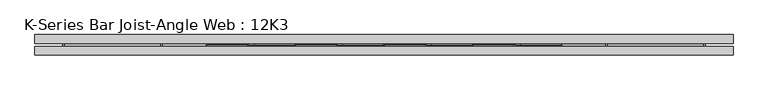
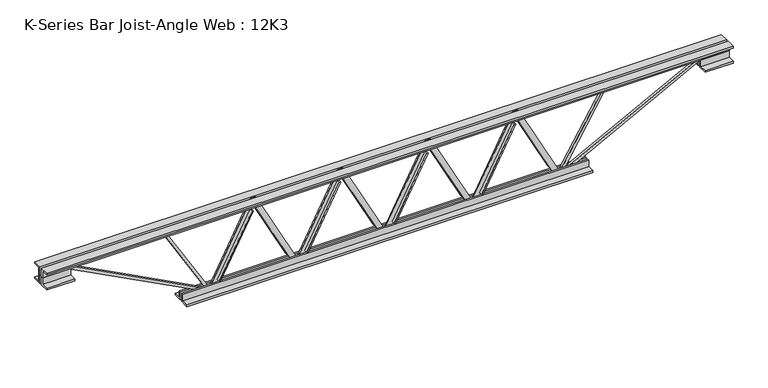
"""IFC4 building model written with IfcOpenShell, lengths in millimetres: beam geometry, K-Series Bar Joist-Angle Web : 12K3."""

import ifcopenshell
import ifcopenshell.guid

model = None  # the IFC model being written
_history = None  # IfcOwnerHistory: only IFC2X3 demands one
_inside = {}  # id of a spatial element -> (the spatial element, [elements in it])
_under = {}  # id of a project, library or spatial element -> (it, [spatial elements below it])
_declared = {}  # id of a project -> (the project, [libraries it declares])
_typed = {}  # id of a type object -> (the type object, [elements of that type])
_made_of = {}  # id of a material, layer set ... -> (it, [elements and type objects made of it])


def new_model(schema):
    """Start an empty IFC model of exactly this schema.

    Asked for "IFC4X3", IfcOpenShell would pick the latest addendum, in which some entities
    have other attributes; the version numbers below select the first issue.
    IFC2X3 requires an IfcOwnerHistory on every rooted entity: one is made here for all.
    """
    global model, _history
    if schema == "IFC4X3":
        model = ifcopenshell.file(schema_version=(4, 3, 0, 0))
    else:
        model = ifcopenshell.file(schema=schema)
    _inside.clear()
    _under.clear()
    _declared.clear()
    _typed.clear()
    _made_of.clear()
    _history = None
    if model.schema == "IFC2X3":
        org = make("IfcOrganization", Name="unknown")
        user = make(
            "IfcPersonAndOrganization",
            ThePerson=make("IfcPerson", FamilyName="unknown"),
            TheOrganization=org,
        )
        app = make(
            "IfcApplication",
            ApplicationDeveloper=org,
            Version="unknown",
            ApplicationFullName="unknown",
            ApplicationIdentifier="unknown",
        )
        _history = make(
            "IfcOwnerHistory",
            OwningUser=user,
            OwningApplication=app,
            ChangeAction="ADDED",
            CreationDate=0,
        )
    return model


def make(cls, **values):
    """One entity of the class cls with the attributes given. An attribute that is None is left unset."""
    return model.create_entity(
        cls, **{name: value for name, value in values.items() if value is not None}
    )


def rooted(cls, **values):
    """An entity with a GlobalId (a new one), such as an element, a storey or a relation."""
    return make(cls, GlobalId=ifcopenshell.guid.new(), OwnerHistory=_history, **values)


def si_unit(unit_type, name, prefix=None):
    """IfcSIUnit, for example si_unit("LENGTHUNIT", "METRE", prefix="MILLI")."""
    return make("IfcSIUnit", UnitType=unit_type, Prefix=prefix, Name=name)


def assignment(units):
    """IfcUnitAssignment: the units of a project."""
    return None if units is None else make("IfcUnitAssignment", Units=units)


def point(xyz):
    """IfcCartesianPoint."""
    return None if xyz is None else make("IfcCartesianPoint", Coordinates=xyz)


def direction(xyz):
    """IfcDirection."""
    return None if xyz is None else make("IfcDirection", DirectionRatios=xyz)


def frame(location, z_axis=None, x_axis=None):
    """IfcAxis2Placement3D, a coordinate frame: its origin and axes. An axis left out is left unset."""
    return make(
        "IfcAxis2Placement3D",
        Location=point(location),
        Axis=direction(z_axis),
        RefDirection=direction(x_axis),
    )


def origin():
    """The frame at (0, 0, 0) with its axes left unset."""
    return frame((0.0, 0.0, 0.0))


def place(relative_to, where):
    """IfcLocalPlacement: puts the frame where relative to a parent placement (None: the world)."""
    return make(
        "IfcLocalPlacement", PlacementRelTo=relative_to, RelativePlacement=where
    )


def context(
    kind, dimensions, precision=None, world=None, true_north=None, identifier=None
):
    """IfcGeometricRepresentationContext, for example the 3D "Model" context."""
    return make(
        "IfcGeometricRepresentationContext",
        ContextIdentifier=identifier,
        ContextType=kind,
        CoordinateSpaceDimension=dimensions,
        Precision=precision,
        WorldCoordinateSystem=world,
        TrueNorth=true_north,
    )


def project(units=None, contexts=None):
    """IfcProject with its units and contexts."""
    return rooted(
        "IfcProject",
        Name="project",
        RepresentationContexts=contexts,
        UnitsInContext=assignment(units),
    )


def spatial(cls, under=None, at=None, **own):
    """A site, building, storey or space (cls), placed at a placement, below another one or the project."""
    s = rooted(cls, ObjectPlacement=at, **own)
    if under is not None:
        _under.setdefault(under.id(), (under, []))[1].append(s)
    return s


def polyline(points):
    """IfcPolyline through the points."""
    return make("IfcPolyline", Points=[point(p) for p in points])


def outline(outer, holes=None, kind="AREA"):
    """IfcArbitraryClosedProfileDef: a profile drawn as a closed curve; with holes, ...WithVoids."""
    if holes is None:
        return make("IfcArbitraryClosedProfileDef", ProfileType=kind, OuterCurve=outer)
    return make(
        "IfcArbitraryProfileDefWithVoids",
        ProfileType=kind,
        OuterCurve=outer,
        InnerCurves=holes,
    )


def extrude(swept, where, along, depth):
    """IfcExtrudedAreaSolid: the profile swept, set in the frame where, extruded along a direction by depth."""
    return make(
        "IfcExtrudedAreaSolid",
        SweptArea=swept,
        Position=where,
        ExtrudedDirection=direction(along),
        Depth=depth,
    )


def faces_of(points, faces, orient=None, outer=None):
    """IfcFace entities. A face is a list of loops; a loop is a list of indices into points, from 0.

    orient and outer hold one flag for each loop. By default every Orientation is true, the
    first loop of a face is its IfcFaceOuterBound and the others are IfcFaceBound.
    """
    made = []
    for i, loops in enumerate(faces):
        bounds = []
        for j, loop in enumerate(loops):
            is_outer = j == 0 if outer is None else outer[i][j]
            bounds.append(
                make(
                    "IfcFaceOuterBound" if is_outer else "IfcFaceBound",
                    Bound=make("IfcPolyLoop", Polygon=[points[k] for k in loop]),
                    Orientation=True if orient is None else orient[i][j],
                )
            )
        made.append(make("IfcFace", Bounds=bounds))
    return made


def faceted_brep(points, faces, orient=None, outer=None, voids=None):
    """IfcFacetedBrep: a solid bounded by flat faces; with voids (closed shells), ...WithVoids."""
    shared = [point(p) for p in points]
    hull = make("IfcClosedShell", CfsFaces=faces_of(shared, faces, orient, outer))
    if voids is None:
        return make("IfcFacetedBrep", Outer=hull)
    return make(
        "IfcFacetedBrepWithVoids",
        Outer=hull,
        Voids=[
            make(cls, CfsFaces=faces_of(shared, fs, o, b)) for cls, fs, o, b in voids
        ],
    )


def shape(context_of_items, identifier, shape_type, items):
    """IfcShapeRepresentation: the items that make up one representation, for example the "Body"."""
    return make(
        "IfcShapeRepresentation",
        ContextOfItems=context_of_items,
        RepresentationIdentifier=identifier,
        RepresentationType=shape_type,
        Items=items,
    )


def source(mapping_origin, context_of_items, identifier, shape_type, items):
    """IfcRepresentationMap: a shape defined once, which mapped items show again and again."""
    return make(
        "IfcRepresentationMap",
        MappingOrigin=mapping_origin,
        MappedRepresentation=shape(context_of_items, identifier, shape_type, items),
    )


def transform(
    local_origin,
    x_axis=None,
    y_axis=None,
    z_axis=None,
    scale=None,
    scale2=None,
    scale3=None,
    uniform=True,
):
    """IfcCartesianTransformationOperator3D, or its non-uniform kind. x_axis, y_axis, z_axis: its Axis1, 2, 3."""
    if uniform:
        return make(
            "IfcCartesianTransformationOperator3D",
            Axis1=direction(x_axis),
            Axis2=direction(y_axis),
            LocalOrigin=point(local_origin),
            Scale=scale,
            Axis3=direction(z_axis),
        )
    return make(
        "IfcCartesianTransformationOperator3DnonUniform",
        Axis1=direction(x_axis),
        Axis2=direction(y_axis),
        LocalOrigin=point(local_origin),
        Scale=scale,
        Axis3=direction(z_axis),
        Scale2=scale2,
        Scale3=scale3,
    )


def mapped(mapping_source, mapping_target):
    """IfcMappedItem: shows the shape of a source again, moved by a transform."""
    return make(
        "IfcMappedItem", MappingSource=mapping_source, MappingTarget=mapping_target
    )


def made_of(thing, what):
    """Note that an element or type object is made of a material, layer set ...; save() writes the relation."""
    if what is not None:
        _made_of.setdefault(what.id(), (what, []))[1].append(thing)
    return thing


def element(
    cls,
    number,
    at=None,
    inside=None,
    cuts=None,
    type_object=None,
    material=None,
    context=None,
    identifier="Body",
    shape_type=None,
    held_by="IfcProductDefinitionShape",
    body=None,
    shapes=None,
    **own,
):
    """One element of the class cls, such as IfcWall. Its Tag is "e" and its number.

    at: its placement. inside: the storey or other place that contains it. cuts: it is an
    opening in that element (IfcRelVoidsElement). A single representation is given by context,
    identifier, shape_type and body (its items); several are given by shapes. held_by: the class
    of the entity that holds the representations. save() writes the other relations.
    """
    e = rooted(cls, Tag="e%d" % number, ObjectPlacement=at, **own)
    if body is not None:
        shapes = [shape(context, identifier, shape_type, body)]
    if shapes is not None:
        e.Representation = make(held_by, Representations=shapes)
    if inside is not None:
        _inside.setdefault(inside.id(), (inside, []))[1].append(e)
    if cuts is not None:
        rooted(
            "IfcRelVoidsElement", RelatingBuildingElement=cuts, RelatedOpeningElement=e
        )
    if type_object is not None:
        _typed.setdefault(type_object.id(), (type_object, []))[1].append(e)
    return made_of(e, material)


def aggregate(whole, parts):
    """IfcRelAggregates: a whole, such as a stair, and the parts it consists of."""
    return rooted("IfcRelAggregates", RelatingObject=whole, RelatedObjects=parts)


def save(model, path):
    """Write the relations noted so far, then the file.

    IfcRelAggregates (storeys below a building ...), IfcRelContainedInSpatialStructure (elements
    in a storey), IfcRelDefinesByType, IfcRelAssociatesMaterial and IfcRelDeclares: one each for
    every whole, place, type object, material and project.
    """
    for whole, parts in _under.values():
        aggregate(whole, parts)
    for where, things in _inside.values():
        rooted(
            "IfcRelContainedInSpatialStructure",
            RelatedElements=things,
            RelatingStructure=where,
        )
    for kind, things in _typed.values():
        rooted("IfcRelDefinesByType", RelatedObjects=things, RelatingType=kind)
    for what, things in _made_of.values():
        rooted("IfcRelAssociatesMaterial", RelatedObjects=things, RelatingMaterial=what)
    for by, libraries in _declared.values():
        rooted("IfcRelDeclares", RelatingContext=by, RelatedDefinitions=libraries)
    model.write(path)


def k_series_bar_joist_angle_web_12k3_0c52efd9(model_context):
    return source(origin(), model_context, "Body", "SolidModel", [
        extrude(outline(polyline([(-4.7625, 4.7624999), (-4.7625, 0.0), (-17.4625, 0.0), (-17.4625, 4.7624999), (-4.7625, 4.7624999)])), frame((285.8866489, 0.0, -114.3), z_axis=(-0.4612733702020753, 0.0, 0.8872580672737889), x_axis=(0.0, -1.0, 0.0)), (0.0, 0.0, 1.0), 257.6476996),
        extrude(outline(polyline([(-149.225, 316.1770833), (-130.175, 316.1770833), (-130.175, 315.6104865), (149.225, 170.3542365), (149.225, 151.8708333), (130.175, 151.8708333), (130.175, 158.7874301), (-149.225, 304.0436801), (-149.225, 316.1770833)])), frame((0.0, 0.0, 0.0), z_axis=(0.0, 1.0, 0.0), x_axis=(0.0, 0.0, 1.0)), (0.0, 0.0, 1.0), 4.7625),
        faceted_brep([(0.2645833, 0.0, -130.175), (0.2645833, 0.0, -149.225), (0.2645833, -4.7625, -149.225), (0.2645833, -4.7625, -130.175), (0.8311801, 0.0, -130.175), (146.0874301, 0.0, 149.225), (164.5708333, 0.0, 149.225), (164.5708333, 0.0, 130.175), (157.6542365, 0.0, 130.175), (12.3979865, 0.0, -149.225), (12.3979865, -4.7625, -149.225), (30.5550178, -4.7625, -114.3), (26.3294512, -4.7625, -112.1031856), (145.175474, -4.7625, 116.4968144), (149.4010405, -4.7625, 114.3), (157.6542365, -4.7625, 130.175), (164.5708333, -4.7625, 130.175), (164.5708333, -4.7625, 149.225), (146.0874301, -4.7625, 149.225), (0.8311801, -4.7625, -130.175), (149.4010405, -17.4625, 114.3), (30.5550178, -17.4625, -114.3), (26.3294512, -17.4625, -112.1031856), (145.175474, -17.4625, 116.4968144)], [[[0, 1, 2, 3]], [[1, 0, 4, 5, 6, 7, 8, 9]], [[2, 1, 9, 10]], [[3, 2, 10, 11, 12, 13, 14, 15, 16, 17, 18, 19]], [[0, 3, 19, 4]], [[9, 8, 15, 14, 20, 21, 11, 10]], [[5, 4, 19, 18]], [[7, 6, 17, 16]], [[8, 7, 16, 15]], [[6, 5, 18, 17]], [[21, 22, 12, 11]], [[20, 14, 13, 23]], [[22, 21, 20, 23]], [[12, 22, 23, 13]]]),
        extrude(outline(polyline([(-4.7625, 4.7625), (-4.7625, 0.0), (-17.4625, 0.0), (-17.4625, 4.7625), (-4.7625, 4.7625)])), frame((-30.5550178, 0.0, -114.3), z_axis=(-0.4612733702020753, 0.0, 0.8872580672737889), x_axis=(0.0, -1.0, 0.0)), (0.0, 0.0, 1.0), 257.6476996),
        extrude(outline(polyline([(-149.225, -0.2645833), (-130.175, -0.2645833), (-130.175, -0.8311801), (149.225, -146.0874301), (149.225, -164.5708333), (130.175, -164.5708333), (130.175, -157.6542365), (-149.225, -12.3979865), (-149.225, -0.2645833)])), frame((0.0, 0.0, 0.0), z_axis=(0.0, 1.0, 0.0), x_axis=(0.0, 0.0, 1.0)), (0.0, 0.0, 1.0), 4.7625),
        faceted_brep([(-316.1770833, 0.0, -130.175), (-316.1770833, 0.0, -149.225), (-316.1770833, -4.7625, -149.225), (-316.1770833, -4.7625, -130.175), (-315.6104865, 0.0, -130.175), (-170.3542365, 0.0, 149.225), (-151.8708333, 0.0, 149.225), (-151.8708333, 0.0, 130.175), (-158.7874301, 0.0, 130.175), (-304.0436801, 0.0, -149.225), (-304.0436801, -4.7625, -149.225), (-285.8866489, -4.7625, -114.3), (-290.1122154, -4.7625, -112.1031856), (-171.2661927, -4.7625, 116.4968144), (-167.0406262, -4.7625, 114.3), (-158.7874301, -4.7625, 130.175), (-151.8708333, -4.7625, 130.175), (-151.8708333, -4.7625, 149.225), (-170.3542365, -4.7625, 149.225), (-315.6104865, -4.7625, -130.175), (-167.0406262, -17.4625, 114.3), (-285.8866489, -17.4625, -114.3), (-290.1122154, -17.4625, -112.1031856), (-171.2661927, -17.4625, 116.4968144)], [[[0, 1, 2, 3]], [[1, 0, 4, 5, 6, 7, 8, 9]], [[2, 1, 9, 10]], [[3, 2, 10, 11, 12, 13, 14, 15, 16, 17, 18, 19]], [[0, 3, 19, 4]], [[9, 8, 15, 14, 20, 21, 11, 10]], [[5, 4, 19, 18]], [[7, 6, 17, 16]], [[8, 7, 16, 15]], [[6, 5, 18, 17]], [[21, 22, 12, 11]], [[20, 14, 13, 23]], [[22, 21, 20, 23]], [[12, 22, 23, 13]]]),
        extrude(outline(polyline([(-4.7625, 4.7625), (-4.7625, 0.0), (-17.4625, 0.0), (-17.4625, 4.7625), (-4.7625, 4.7625)])), frame((602.3283155, 0.0, -114.3), z_axis=(-0.4612733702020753, 0.0, 0.8872580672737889), x_axis=(0.0, -1.0, 0.0)), (0.0, 0.0, 1.0), 257.6476996),
        extrude(outline(polyline([(-149.225, 632.61875), (-130.175, 632.61875), (-130.175, 632.0521532), (149.225, 486.7959032), (149.225, 468.3125), (130.175, 468.3125), (130.175, 475.2290968), (-149.225, 620.4853468), (-149.225, 632.61875)])), frame((0.0, 0.0, 0.0), z_axis=(0.0, 1.0, 0.0), x_axis=(0.0, 0.0, 1.0)), (0.0, 0.0, 1.0), 4.7625),
        faceted_brep([(316.70625, 0.0, -130.175), (316.70625, 0.0, -149.225), (316.70625, -4.7625, -149.225), (316.70625, -4.7625, -130.175), (317.2728468, 0.0, -130.175), (462.5290968, 0.0, 149.225), (481.0125, 0.0, 149.225), (481.0125, 0.0, 130.175), (474.0959032, 0.0, 130.175), (328.8396532, 0.0, -149.225), (328.8396532, -4.7625, -149.225), (346.9966845, -4.7625, -114.3), (342.7711179, -4.7625, -112.1031856), (461.6171406, -4.7625, 116.4968144), (465.8427072, -4.7625, 114.3), (474.0959032, -4.7625, 130.175), (481.0125, -4.7625, 130.175), (481.0125, -4.7625, 149.225), (462.5290968, -4.7625, 149.225), (317.2728468, -4.7625, -130.175), (465.8427072, -17.4625, 114.3), (346.9966845, -17.4625, -114.3), (342.7711179, -17.4625, -112.1031856), (461.6171406, -17.4625, 116.4968144)], [[[0, 1, 2, 3]], [[1, 0, 4, 5, 6, 7, 8, 9]], [[2, 1, 9, 10]], [[3, 2, 10, 11, 12, 13, 14, 15, 16, 17, 18, 19]], [[0, 3, 19, 4]], [[9, 8, 15, 14, 20, 21, 11, 10]], [[5, 4, 19, 18]], [[7, 6, 17, 16]], [[8, 7, 16, 15]], [[6, 5, 18, 17]], [[21, 22, 12, 11]], [[20, 14, 13, 23]], [[22, 21, 20, 23]], [[12, 22, 23, 13]]]),
        extrude(outline(polyline([(-4.7625, 4.7625), (-4.7625, 0.0), (-17.4625, 0.0), (-17.4625, 4.7625), (-4.7625, 4.7625)])), frame((-346.9966845, 0.0, -114.3), z_axis=(-0.4612733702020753, 0.0, 0.8872580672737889), x_axis=(0.0, -1.0, 0.0)), (0.0, 0.0, 1.0), 257.6476996),
        extrude(outline(polyline([(-149.225, -316.70625), (-130.175, -316.70625), (-130.175, -317.2728468), (149.225, -462.5290968), (149.225, -481.0125), (130.175, -481.0125), (130.175, -474.0959032), (-149.225, -328.8396532), (-149.225, -316.70625)])), frame((0.0, 0.0, 0.0), z_axis=(0.0, 1.0, 0.0), x_axis=(0.0, 0.0, 1.0)), (0.0, 0.0, 1.0), 4.7625),
        faceted_brep([(-632.61875, 0.0, -130.175), (-632.61875, 0.0, -149.225), (-632.61875, -4.7625, -149.225), (-632.61875, -4.7625, -130.175), (-632.0521532, 0.0, -130.175), (-486.7959032, 0.0, 149.225), (-468.3125, 0.0, 149.225), (-468.3125, 0.0, 130.175), (-475.2290968, 0.0, 130.175), (-620.4853468, 0.0, -149.225), (-620.4853468, -4.7625, -149.225), (-602.3283155, -4.7625, -114.3), (-606.5538821, -4.7625, -112.1031856), (-487.7078594, -4.7625, 116.4968144), (-483.4822928, -4.7625, 114.3), (-475.2290968, -4.7625, 130.175), (-468.3125, -4.7625, 130.175), (-468.3125, -4.7625, 149.225), (-486.7959032, -4.7625, 149.225), (-632.0521532, -4.7625, -130.175), (-483.4822928, -17.4625, 114.3), (-602.3283155, -17.4625, -114.3), (-606.5538821, -17.4625, -112.1031856), (-487.7078594, -17.4625, 116.4968144)], [[[0, 1, 2, 3]], [[1, 0, 4, 5, 6, 7, 8, 9]], [[2, 1, 9, 10]], [[3, 2, 10, 11, 12, 13, 14, 15, 16, 17, 18, 19]], [[0, 3, 19, 4]], [[9, 8, 15, 14, 20, 21, 11, 10]], [[5, 4, 19, 18]], [[7, 6, 17, 16]], [[8, 7, 16, 15]], [[6, 5, 18, 17]], [[21, 22, 12, 11]], [[20, 14, 13, 23]], [[22, 21, 20, 23]], [[12, 22, 23, 13]]]),
        extrude(outline(polyline([(4.7625, 152.4), (36.5125, 152.4), (36.5125, 146.05), (11.1125, 146.05), (11.1125, 120.65), (4.7625, 120.65), (4.7625, 152.4)])), frame((-1242.21875, 0.0, 0.0), z_axis=(1.0, 0.0, 0.0), x_axis=(0.0, 1.0, 0.0)), (0.0, 0.0, 1.0), 2484.4375),
        extrude(outline(polyline([(-4.7625, 152.4), (-4.7625, 120.65), (-11.1125, 120.65), (-11.1125, 146.05), (-36.5125, 146.05), (-36.5125, 152.4), (-4.7625, 152.4)])), frame((-1242.21875, 0.0, 0.0), z_axis=(1.0, 0.0, 0.0), x_axis=(0.0, 1.0, 0.0)), (0.0, 0.0, 1.0), 2484.4375),
        extrude(outline(polyline([(-4.7625, 88.9), (-36.5125, 88.9), (-36.5125, 95.25), (-11.1125, 95.25), (-11.1125, 120.65), (-4.7625, 120.65), (-4.7625, 88.9)])), frame((-1242.21875, 0.0, 0.0), z_axis=(1.0, 0.0, 0.0), x_axis=(0.0, 1.0, 0.0)), (0.0, 0.0, 1.0), 101.6),
        extrude(outline(polyline([(36.5125, 88.9), (4.7625, 88.9), (4.7625, 120.65), (11.1125, 120.65), (11.1125, 95.25), (36.5125, 95.25), (36.5125, 88.9)])), frame((-1242.21875, 0.0, 0.0), z_axis=(1.0, 0.0, 0.0), x_axis=(0.0, 1.0, 0.0)), (0.0, 0.0, 1.0), 101.6),
        extrude(outline(polyline([(4.7625, 88.9), (4.7625, 120.65), (11.1125, 120.65), (11.1125, 95.25), (36.5125, 95.25), (36.5125, 88.9), (4.7625, 88.9)])), frame((1140.61875, 0.0, 0.0), z_axis=(1.0, 0.0, 0.0), x_axis=(0.0, 1.0, 0.0)), (0.0, 0.0, 1.0), 101.6),
        extrude(outline(polyline([(-4.7625, 88.9), (-36.5125, 88.9), (-36.5125, 95.25), (-11.1125, 95.25), (-11.1125, 120.65), (-4.7625, 120.65), (-4.7625, 88.9)])), frame((1140.61875, 0.0, 0.0), z_axis=(1.0, 0.0, 0.0), x_axis=(0.0, 1.0, 0.0)), (0.0, 0.0, 1.0), 101.6),
        extrude(outline(polyline([(4.7625, -152.4), (4.7625, -120.65), (11.1125, -120.65), (11.1125, -146.05), (36.5125, -146.05), (36.5125, -152.4), (4.7625, -152.4)])), frame((-734.21875, 0.0, 0.0), z_axis=(1.0, 0.0, 0.0), x_axis=(0.0, 1.0, 0.0)), (0.0, 0.0, 1.0), 1468.4375),
        extrude(outline(polyline([(-4.7625, -152.4), (-36.5125, -152.4), (-36.5125, -146.05), (-11.1125, -146.05), (-11.1125, -120.65), (-4.7625, -120.65), (-4.7625, -152.4)])), frame((-734.21875, 0.0, 0.0), z_axis=(1.0, 0.0, 0.0), x_axis=(0.0, 1.0, 0.0)), (0.0, 0.0, 1.0), 1468.4375),
        extrude(outline(polyline([(4.7625, 4.7625), (4.7625, -4.7625), (-4.7625, -4.7625), (-4.7625, 4.7625), (4.7625, 4.7625)])), frame((632.61875, 0.0, -146.05), z_axis=(0.5095917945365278, 0.0, 0.8604162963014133), x_axis=(0.0, -1.0, 0.0)), (0.0, 0.0, 1.0), 309.9662351),
        extrude(outline(polyline([(4.7625, 4.7625), (4.7625, -4.7625), (-4.7625, -4.7625), (-4.7625, 4.7625), (4.7625, 4.7625)])), frame((-632.61875, 0.0, -146.05), z_axis=(-0.5095917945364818, 0.0, 0.8604162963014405), x_axis=(0.0, -1.0, 0.0)), (0.0, 0.0, 1.0), 309.9662351),
        extrude(outline(polyline([(0.0, -9.525), (0.0, 0.0), (573.7533355, 0.0), (573.7533355, -9.525), (0.0, -9.525)])), frame((1142.8325214, -4.7625, 116.4332925), z_axis=(-0.46483389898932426, 0.0, 0.8853979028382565), x_axis=(-0.8853979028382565, 0.0, -0.46483389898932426)), (0.0, 0.0, 1.0), 9.525),
        extrude(outline(polyline([(0.0, -9.525), (0.0, 0.0), (573.7533355, 0.0), (573.7533355, -9.525), (0.0, -9.525)])), frame((-1142.8325214, 4.7625, 116.4332925), z_axis=(0.46483389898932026, 0.0, 0.8853979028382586), x_axis=(0.8853979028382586, 0.0, -0.46483389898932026)), (0.0, 0.0, 1.0), 9.525),
    ])


if __name__ == "__main__":
    model = new_model("IFC4")
    model_context = context("Model", 3, world=origin())
    ifc_project = project(units=[si_unit("LENGTHUNIT", "METRE", prefix="MILLI")], contexts=[model_context])
    site = spatial("IfcSite", under=ifc_project)
    building = spatial("IfcBuilding", under=site)
    placement = place(None, origin())
    k_series_bar_joist_angle_web_12k3_shape = k_series_bar_joist_angle_web_12k3_0c52efd9(model_context)
    element("IfcBeam", 1, ObjectType="K-Series Bar Joist-Angle Web : 12K3", at=placement, inside=building, context=model_context, shape_type="MappedRepresentation", body=[
        mapped(k_series_bar_joist_angle_web_12k3_shape, transform((0.0, 0.0, 0.0), x_axis=(1.0, 0.0, 0.0), y_axis=(0.0, 1.0, 0.0), z_axis=(0.0, 0.0, 1.0))),
    ])
    save(model, "model.ifc")
